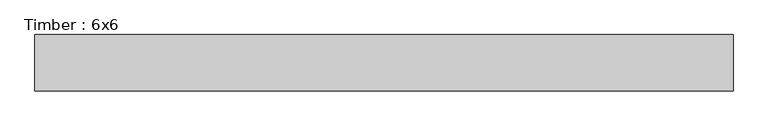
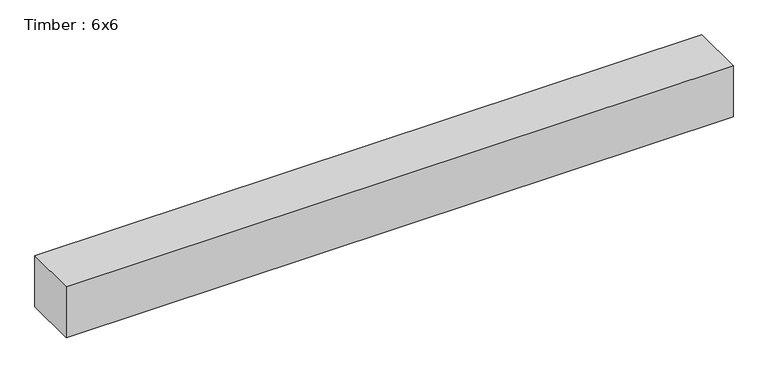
"""IFC4 building model written with IfcOpenShell, lengths in millimetres: beam geometry, Timber : 6x6."""

import ifcopenshell
import ifcopenshell.guid

model = None  # the IFC model being written
_history = None  # IfcOwnerHistory: only IFC2X3 demands one
_inside = {}  # id of a spatial element -> (the spatial element, [elements in it])
_under = {}  # id of a project, library or spatial element -> (it, [spatial elements below it])
_declared = {}  # id of a project -> (the project, [libraries it declares])
_typed = {}  # id of a type object -> (the type object, [elements of that type])
_made_of = {}  # id of a material, layer set ... -> (it, [elements and type objects made of it])


def new_model(schema):
    """Start an empty IFC model of exactly this schema.

    Asked for "IFC4X3", IfcOpenShell would pick the latest addendum, in which some entities
    have other attributes; the version numbers below select the first issue.
    IFC2X3 requires an IfcOwnerHistory on every rooted entity: one is made here for all.
    """
    global model, _history
    if schema == "IFC4X3":
        model = ifcopenshell.file(schema_version=(4, 3, 0, 0))
    else:
        model = ifcopenshell.file(schema=schema)
    _inside.clear()
    _under.clear()
    _declared.clear()
    _typed.clear()
    _made_of.clear()
    _history = None
    if model.schema == "IFC2X3":
        org = make("IfcOrganization", Name="unknown")
        user = make(
            "IfcPersonAndOrganization",
            ThePerson=make("IfcPerson", FamilyName="unknown"),
            TheOrganization=org,
        )
        app = make(
            "IfcApplication",
            ApplicationDeveloper=org,
            Version="unknown",
            ApplicationFullName="unknown",
            ApplicationIdentifier="unknown",
        )
        _history = make(
            "IfcOwnerHistory",
            OwningUser=user,
            OwningApplication=app,
            ChangeAction="ADDED",
            CreationDate=0,
        )
    return model


def make(cls, **values):
    """One entity of the class cls with the attributes given. An attribute that is None is left unset."""
    return model.create_entity(
        cls, **{name: value for name, value in values.items() if value is not None}
    )


def rooted(cls, **values):
    """An entity with a GlobalId (a new one), such as an element, a storey or a relation."""
    return make(cls, GlobalId=ifcopenshell.guid.new(), OwnerHistory=_history, **values)


def si_unit(unit_type, name, prefix=None):
    """IfcSIUnit, for example si_unit("LENGTHUNIT", "METRE", prefix="MILLI")."""
    return make("IfcSIUnit", UnitType=unit_type, Prefix=prefix, Name=name)


def assignment(units):
    """IfcUnitAssignment: the units of a project."""
    return None if units is None else make("IfcUnitAssignment", Units=units)


def point(xyz):
    """IfcCartesianPoint."""
    return None if xyz is None else make("IfcCartesianPoint", Coordinates=xyz)


def direction(xyz):
    """IfcDirection."""
    return None if xyz is None else make("IfcDirection", DirectionRatios=xyz)


def frame(location, z_axis=None, x_axis=None):
    """IfcAxis2Placement3D, a coordinate frame: its origin and axes. An axis left out is left unset."""
    return make(
        "IfcAxis2Placement3D",
        Location=point(location),
        Axis=direction(z_axis),
        RefDirection=direction(x_axis),
    )


def origin():
    """The frame at (0, 0, 0) with its axes left unset."""
    return frame((0.0, 0.0, 0.0))


def place(relative_to, where):
    """IfcLocalPlacement: puts the frame where relative to a parent placement (None: the world)."""
    return make(
        "IfcLocalPlacement", PlacementRelTo=relative_to, RelativePlacement=where
    )


def context(
    kind, dimensions, precision=None, world=None, true_north=None, identifier=None
):
    """IfcGeometricRepresentationContext, for example the 3D "Model" context."""
    return make(
        "IfcGeometricRepresentationContext",
        ContextIdentifier=identifier,
        ContextType=kind,
        CoordinateSpaceDimension=dimensions,
        Precision=precision,
        WorldCoordinateSystem=world,
        TrueNorth=true_north,
    )


def project(units=None, contexts=None):
    """IfcProject with its units and contexts."""
    return rooted(
        "IfcProject",
        Name="project",
        RepresentationContexts=contexts,
        UnitsInContext=assignment(units),
    )


def spatial(cls, under=None, at=None, **own):
    """A site, building, storey or space (cls), placed at a placement, below another one or the project."""
    s = rooted(cls, ObjectPlacement=at, **own)
    if under is not None:
        _under.setdefault(under.id(), (under, []))[1].append(s)
    return s


def polyline(points):
    """IfcPolyline through the points."""
    return make("IfcPolyline", Points=[point(p) for p in points])


def outline(outer, holes=None, kind="AREA"):
    """IfcArbitraryClosedProfileDef: a profile drawn as a closed curve; with holes, ...WithVoids."""
    if holes is None:
        return make("IfcArbitraryClosedProfileDef", ProfileType=kind, OuterCurve=outer)
    return make(
        "IfcArbitraryProfileDefWithVoids",
        ProfileType=kind,
        OuterCurve=outer,
        InnerCurves=holes,
    )


def extrude(swept, where, along, depth):
    """IfcExtrudedAreaSolid: the profile swept, set in the frame where, extruded along a direction by depth."""
    return make(
        "IfcExtrudedAreaSolid",
        SweptArea=swept,
        Position=where,
        ExtrudedDirection=direction(along),
        Depth=depth,
    )


def shape(context_of_items, identifier, shape_type, items):
    """IfcShapeRepresentation: the items that make up one representation, for example the "Body"."""
    return make(
        "IfcShapeRepresentation",
        ContextOfItems=context_of_items,
        RepresentationIdentifier=identifier,
        RepresentationType=shape_type,
        Items=items,
    )


def source(mapping_origin, context_of_items, identifier, shape_type, items):
    """IfcRepresentationMap: a shape defined once, which mapped items show again and again."""
    return make(
        "IfcRepresentationMap",
        MappingOrigin=mapping_origin,
        MappedRepresentation=shape(context_of_items, identifier, shape_type, items),
    )


def transform(
    local_origin,
    x_axis=None,
    y_axis=None,
    z_axis=None,
    scale=None,
    scale2=None,
    scale3=None,
    uniform=True,
):
    """IfcCartesianTransformationOperator3D, or its non-uniform kind. x_axis, y_axis, z_axis: its Axis1, 2, 3."""
    if uniform:
        return make(
            "IfcCartesianTransformationOperator3D",
            Axis1=direction(x_axis),
            Axis2=direction(y_axis),
            LocalOrigin=point(local_origin),
            Scale=scale,
            Axis3=direction(z_axis),
        )
    return make(
        "IfcCartesianTransformationOperator3DnonUniform",
        Axis1=direction(x_axis),
        Axis2=direction(y_axis),
        LocalOrigin=point(local_origin),
        Scale=scale,
        Axis3=direction(z_axis),
        Scale2=scale2,
        Scale3=scale3,
    )


def mapped(mapping_source, mapping_target):
    """IfcMappedItem: shows the shape of a source again, moved by a transform."""
    return make(
        "IfcMappedItem", MappingSource=mapping_source, MappingTarget=mapping_target
    )


def made_of(thing, what):
    """Note that an element or type object is made of a material, layer set ...; save() writes the relation."""
    if what is not None:
        _made_of.setdefault(what.id(), (what, []))[1].append(thing)
    return thing


def element(
    cls,
    number,
    at=None,
    inside=None,
    cuts=None,
    type_object=None,
    material=None,
    context=None,
    identifier="Body",
    shape_type=None,
    held_by="IfcProductDefinitionShape",
    body=None,
    shapes=None,
    **own,
):
    """One element of the class cls, such as IfcWall. Its Tag is "e" and its number.

    at: its placement. inside: the storey or other place that contains it. cuts: it is an
    opening in that element (IfcRelVoidsElement). A single representation is given by context,
    identifier, shape_type and body (its items); several are given by shapes. held_by: the class
    of the entity that holds the representations. save() writes the other relations.
    """
    e = rooted(cls, Tag="e%d" % number, ObjectPlacement=at, **own)
    if body is not None:
        shapes = [shape(context, identifier, shape_type, body)]
    if shapes is not None:
        e.Representation = make(held_by, Representations=shapes)
    if inside is not None:
        _inside.setdefault(inside.id(), (inside, []))[1].append(e)
    if cuts is not None:
        rooted(
            "IfcRelVoidsElement", RelatingBuildingElement=cuts, RelatedOpeningElement=e
        )
    if type_object is not None:
        _typed.setdefault(type_object.id(), (type_object, []))[1].append(e)
    return made_of(e, material)


def aggregate(whole, parts):
    """IfcRelAggregates: a whole, such as a stair, and the parts it consists of."""
    return rooted("IfcRelAggregates", RelatingObject=whole, RelatedObjects=parts)


def save(model, path):
    """Write the relations noted so far, then the file.

    IfcRelAggregates (storeys below a building ...), IfcRelContainedInSpatialStructure (elements
    in a storey), IfcRelDefinesByType, IfcRelAssociatesMaterial and IfcRelDeclares: one each for
    every whole, place, type object, material and project.
    """
    for whole, parts in _under.values():
        aggregate(whole, parts)
    for where, things in _inside.values():
        rooted(
            "IfcRelContainedInSpatialStructure",
            RelatedElements=things,
            RelatingStructure=where,
        )
    for kind, things in _typed.values():
        rooted("IfcRelDefinesByType", RelatedObjects=things, RelatingType=kind)
    for what, things in _made_of.values():
        rooted("IfcRelAssociatesMaterial", RelatedObjects=things, RelatingMaterial=what)
    for by, libraries in _declared.values():
        rooted("IfcRelDeclares", RelatingContext=by, RelatedDefinitions=libraries)
    model.write(path)


def timber_6x6_61547d3c(model_context):
    return source(origin(), model_context, "Body", "SweptSolid", [
        extrude(outline(polyline([(876.3, 69.85), (876.3, -69.85), (-850.9, -69.85), (-850.9, 69.85), (876.3, 69.85)])), frame((0.0, 0.0, -69.85), z_axis=(0.0, 0.0, 1.0), x_axis=(1.0, 0.0, 0.0)), (0.0, 0.0, 1.0), 139.7),
    ])


if __name__ == "__main__":
    model = new_model("IFC4")
    model_context = context("Model", 3, world=origin())
    ifc_project = project(units=[si_unit("LENGTHUNIT", "METRE", prefix="MILLI")], contexts=[model_context])
    site = spatial("IfcSite", under=ifc_project)
    building = spatial("IfcBuilding", under=site)
    placement = place(None, origin())
    timber_6x6_shape = timber_6x6_61547d3c(model_context)
    element("IfcBeam", 1, ObjectType="Timber : 6x6", at=placement, inside=building, context=model_context, shape_type="MappedRepresentation", body=[
        mapped(timber_6x6_shape, transform((0.0, 0.0, 0.0), x_axis=(1.0, 0.0, 0.0), y_axis=(0.0, 1.0, 0.0), z_axis=(0.0, 0.0, 1.0))),
    ])
    save(model, "model.ifc")
